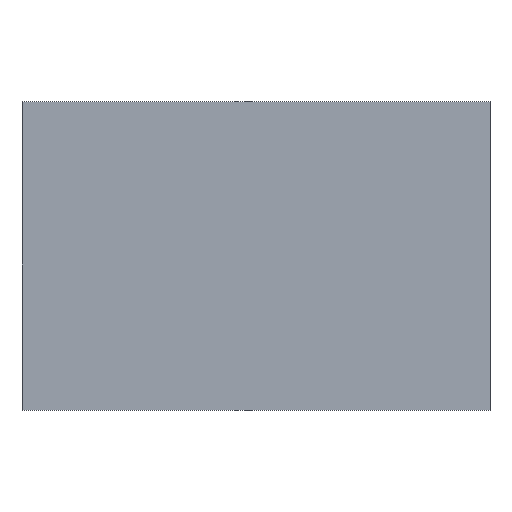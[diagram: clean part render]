
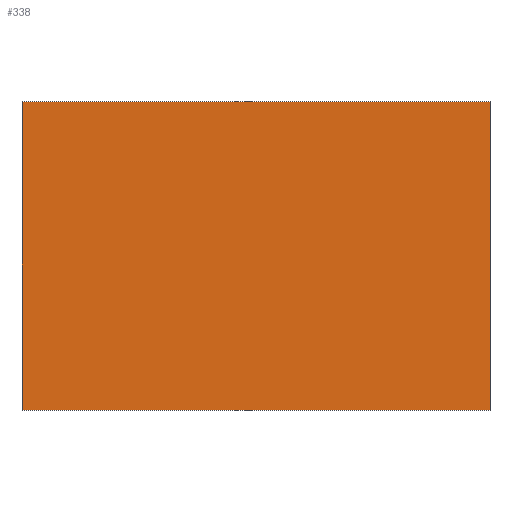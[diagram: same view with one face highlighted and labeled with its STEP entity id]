
A CAD part, top view. The second image highlights one B-rep face of the part: STEP entity #338.
In plain terms, the highlighted planar face has unit normal (0, 0, 1).
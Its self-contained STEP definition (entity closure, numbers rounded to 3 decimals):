
#21 = EDGE_CURVE('',#22,#24,#26,.T.);
#22 = VERTEX_POINT('',#23);
#23 = CARTESIAN_POINT('',(-42.5,3.,84.));
#24 = VERTEX_POINT('',#25);
#25 = CARTESIAN_POINT('',(-42.5,-53.,84.));
#26 = SURFACE_CURVE('',#27,(#31,#43),.PCURVE_S1.);
#27 = LINE('',#28,#29);
#28 = CARTESIAN_POINT('',(-42.5,-53.,84.));
#29 = VECTOR('',#30,1.);
#30 = DIRECTION('',(0.,-1.,0.));
#31 = PCURVE('',#32,#37);
#32 = PLANE('',#33);
#33 = AXIS2_PLACEMENT_3D('',#34,#35,#36);
#34 = CARTESIAN_POINT('',(-42.5,-53.,82.));
#35 = DIRECTION('',(1.,0.,0.));
#36 = DIRECTION('',(0.,0.,1.));
#37 = DEFINITIONAL_REPRESENTATION('',(#38),#42);
#38 = LINE('',#39,#40);
#39 = CARTESIAN_POINT('',(2.,0.));
#40 = VECTOR('',#41,1.);
#41 = DIRECTION('',(0.,1.));
#42 = ( GEOMETRIC_REPRESENTATION_CONTEXT(2) 
PARAMETRIC_REPRESENTATION_CONTEXT() REPRESENTATION_CONTEXT('2D SPACE',''
  ) );
#43 = PCURVE('',#44,#49);
#44 = PLANE('',#45);
#45 = AXIS2_PLACEMENT_3D('',#46,#47,#48);
#46 = CARTESIAN_POINT('',(-42.5,-53.,84.));
#47 = DIRECTION('',(0.,0.,1.));
#48 = DIRECTION('',(1.,0.,0.));
#49 = DEFINITIONAL_REPRESENTATION('',(#50),#54);
#50 = LINE('',#51,#52);
#51 = CARTESIAN_POINT('',(0.,0.));
#52 = VECTOR('',#53,1.);
#53 = DIRECTION('',(0.,-1.));
#54 = ( GEOMETRIC_REPRESENTATION_CONTEXT(2) 
PARAMETRIC_REPRESENTATION_CONTEXT() REPRESENTATION_CONTEXT('2D SPACE',''
  ) );
#72 = PLANE('',#73);
#73 = AXIS2_PLACEMENT_3D('',#74,#75,#76);
#74 = CARTESIAN_POINT('',(-42.5,3.,82.));
#75 = DIRECTION('',(0.,1.,0.));
#76 = DIRECTION('',(0.,0.,1.));
#126 = PLANE('',#127);
#127 = AXIS2_PLACEMENT_3D('',#128,#129,#130);
#128 = CARTESIAN_POINT('',(-42.5,-53.,82.));
#129 = DIRECTION('',(0.,1.,0.));
#130 = DIRECTION('',(0.,0.,1.));
#144 = VERTEX_POINT('',#145);
#145 = CARTESIAN_POINT('',(42.5,-53.,84.));
#152 = PLANE('',#153);
#153 = AXIS2_PLACEMENT_3D('',#154,#155,#156);
#154 = CARTESIAN_POINT('',(42.5,-53.,82.));
#155 = DIRECTION('',(1.,0.,0.));
#156 = DIRECTION('',(0.,0.,1.));
#195 = VERTEX_POINT('',#196);
#196 = CARTESIAN_POINT('',(42.5,3.,84.));
#217 = EDGE_CURVE('',#144,#195,#218,.T.);
#218 = SURFACE_CURVE('',#219,(#223,#230),.PCURVE_S1.);
#219 = LINE('',#220,#221);
#220 = CARTESIAN_POINT('',(42.5,-53.,84.));
#221 = VECTOR('',#222,1.);
#222 = DIRECTION('',(0.,1.,0.));
#223 = PCURVE('',#152,#224);
#224 = DEFINITIONAL_REPRESENTATION('',(#225),#229);
#225 = LINE('',#226,#227);
#226 = CARTESIAN_POINT('',(2.,0.));
#227 = VECTOR('',#228,1.);
#228 = DIRECTION('',(0.,-1.));
#229 = ( GEOMETRIC_REPRESENTATION_CONTEXT(2) 
PARAMETRIC_REPRESENTATION_CONTEXT() REPRESENTATION_CONTEXT('2D SPACE',''
  ) );
#230 = PCURVE('',#44,#231);
#231 = DEFINITIONAL_REPRESENTATION('',(#232),#236);
#232 = LINE('',#233,#234);
#233 = CARTESIAN_POINT('',(85.,0.));
#234 = VECTOR('',#235,1.);
#235 = DIRECTION('',(0.,1.));
#236 = ( GEOMETRIC_REPRESENTATION_CONTEXT(2) 
PARAMETRIC_REPRESENTATION_CONTEXT() REPRESENTATION_CONTEXT('2D SPACE',''
  ) );
#242 = EDGE_CURVE('',#24,#144,#243,.T.);
#243 = SURFACE_CURVE('',#244,(#248,#255),.PCURVE_S1.);
#244 = LINE('',#245,#246);
#245 = CARTESIAN_POINT('',(-42.5,-53.,84.));
#246 = VECTOR('',#247,1.);
#247 = DIRECTION('',(1.,0.,0.));
#248 = PCURVE('',#126,#249);
#249 = DEFINITIONAL_REPRESENTATION('',(#250),#254);
#250 = LINE('',#251,#252);
#251 = CARTESIAN_POINT('',(2.,0.));
#252 = VECTOR('',#253,1.);
#253 = DIRECTION('',(0.,1.));
#254 = ( GEOMETRIC_REPRESENTATION_CONTEXT(2) 
PARAMETRIC_REPRESENTATION_CONTEXT() REPRESENTATION_CONTEXT('2D SPACE',''
  ) );
#255 = PCURVE('',#44,#256);
#256 = DEFINITIONAL_REPRESENTATION('',(#257),#261);
#257 = LINE('',#258,#259);
#258 = CARTESIAN_POINT('',(0.,0.));
#259 = VECTOR('',#260,1.);
#260 = DIRECTION('',(1.,0.));
#261 = ( GEOMETRIC_REPRESENTATION_CONTEXT(2) 
PARAMETRIC_REPRESENTATION_CONTEXT() REPRESENTATION_CONTEXT('2D SPACE',''
  ) );
#310 = EDGE_CURVE('',#22,#195,#311,.T.);
#311 = SURFACE_CURVE('',#312,(#316,#323),.PCURVE_S1.);
#312 = LINE('',#313,#314);
#313 = CARTESIAN_POINT('',(-42.5,3.,84.));
#314 = VECTOR('',#315,1.);
#315 = DIRECTION('',(1.,0.,0.));
#316 = PCURVE('',#72,#317);
#317 = DEFINITIONAL_REPRESENTATION('',(#318),#322);
#318 = LINE('',#319,#320);
#319 = CARTESIAN_POINT('',(2.,0.));
#320 = VECTOR('',#321,1.);
#321 = DIRECTION('',(0.,1.));
#322 = ( GEOMETRIC_REPRESENTATION_CONTEXT(2) 
PARAMETRIC_REPRESENTATION_CONTEXT() REPRESENTATION_CONTEXT('2D SPACE',''
  ) );
#323 = PCURVE('',#44,#324);
#324 = DEFINITIONAL_REPRESENTATION('',(#325),#329);
#325 = LINE('',#326,#327);
#326 = CARTESIAN_POINT('',(0.,56.));
#327 = VECTOR('',#328,1.);
#328 = DIRECTION('',(1.,0.));
#329 = ( GEOMETRIC_REPRESENTATION_CONTEXT(2) 
PARAMETRIC_REPRESENTATION_CONTEXT() REPRESENTATION_CONTEXT('2D SPACE',''
  ) );
#338 = ADVANCED_FACE('',(#339),#44,.T.);
#339 = FACE_BOUND('',#340,.T.);
#340 = EDGE_LOOP('',(#341,#342,#343,#344));
#341 = ORIENTED_EDGE('',*,*,#21,.T.);
#342 = ORIENTED_EDGE('',*,*,#242,.T.);
#343 = ORIENTED_EDGE('',*,*,#217,.T.);
#344 = ORIENTED_EDGE('',*,*,#310,.F.);
